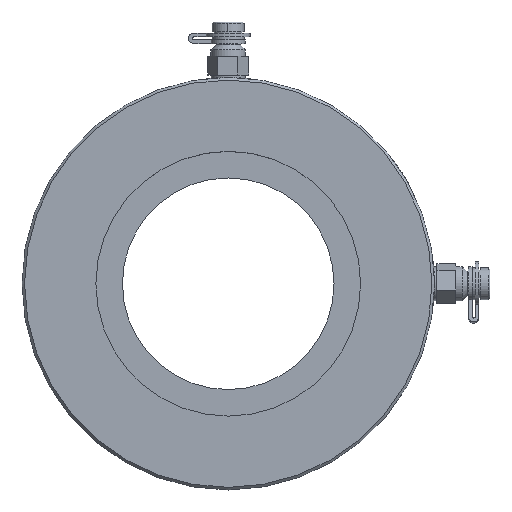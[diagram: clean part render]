
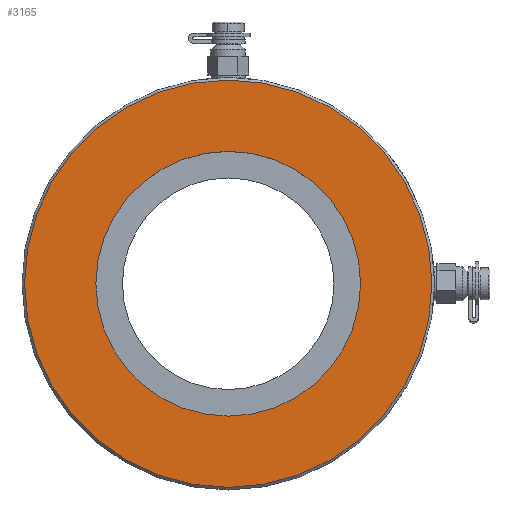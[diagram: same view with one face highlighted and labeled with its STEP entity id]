
A CAD part, top view. The second image highlights one B-rep face of the part: STEP entity #3165.
In plain terms, the highlighted planar face has unit normal (0, 0, 1).
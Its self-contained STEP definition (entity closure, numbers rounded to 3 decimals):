
#3131=CARTESIAN_POINT('',(81.,0.,10.0));
#3132=VERTEX_POINT('',#3131);
#3133=CARTESIAN_POINT('',(0.0,0.0,10.0));
#3134=DIRECTION('',(0.0,0.0,-1.0));
#3135=DIRECTION('',(-1.0,0.0,0.0));
#3136=AXIS2_PLACEMENT_3D('',#3133,#3134,#3135);
#3137=CIRCLE('',#3136,81.);
#3138=EDGE_CURVE('',#3132,#3132,#3137,.T.);
#3146=CARTESIAN_POINT('',(0.0,0.0,10.0));
#3147=DIRECTION('',(0.0,0.0,-1.0));
#3148=DIRECTION('',(-1.0,0.0,0.0));
#3149=AXIS2_PLACEMENT_3D('',#3146,#3147,#3148);
#3150=PLANE('',#3149);
#3151=ORIENTED_EDGE('',*,*,#3138,.F.);
#3152=EDGE_LOOP('',(#3151));
#3153=FACE_OUTER_BOUND('',#3152,.T.);
#3154=CARTESIAN_POINT('',(52.65,0.,10.0));
#3155=VERTEX_POINT('',#3154);
#3156=CARTESIAN_POINT('',(0.0,0.0,10.0));
#3157=DIRECTION('',(0.0,0.0,-1.0));
#3158=DIRECTION('',(-1.0,0.0,0.0));
#3159=AXIS2_PLACEMENT_3D('',#3156,#3157,#3158);
#3160=CIRCLE('',#3159,52.65);
#3161=EDGE_CURVE('',#3155,#3155,#3160,.T.);
#3162=ORIENTED_EDGE('',*,*,#3161,.T.);
#3163=EDGE_LOOP('',(#3162));
#3164=FACE_BOUND('',#3163,.T.);
#3165=ADVANCED_FACE('',(#3153,#3164),#3150,.F.);
